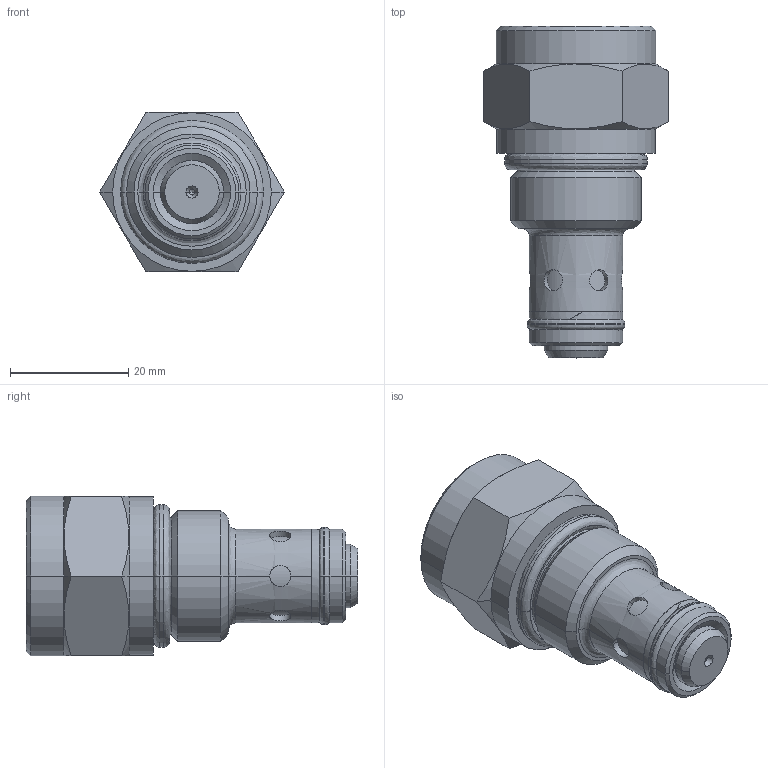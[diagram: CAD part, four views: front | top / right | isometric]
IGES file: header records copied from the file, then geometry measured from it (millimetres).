
Start section:  PTC IGES file: CVRP-10-_-_.igs
Global section: file name: CVRP-10-_-_.igs; native system: Creo Elements/Pro by Parametric Technology Corporation; preprocessor: 2015070; author: torrese; organization: Unknown; date: 20150903.101948; units: inch
Bounding box: 31.15 x 56.02 x 26.97 mm (x, y, z)
Volume: 21691.9 mm3; surface area: 5398.6 mm2
Topology: 1 solids, 1 shells, 100 faces, 212 edges, 125 vertices
Faces by surface type: revolution 81, bspline 19
